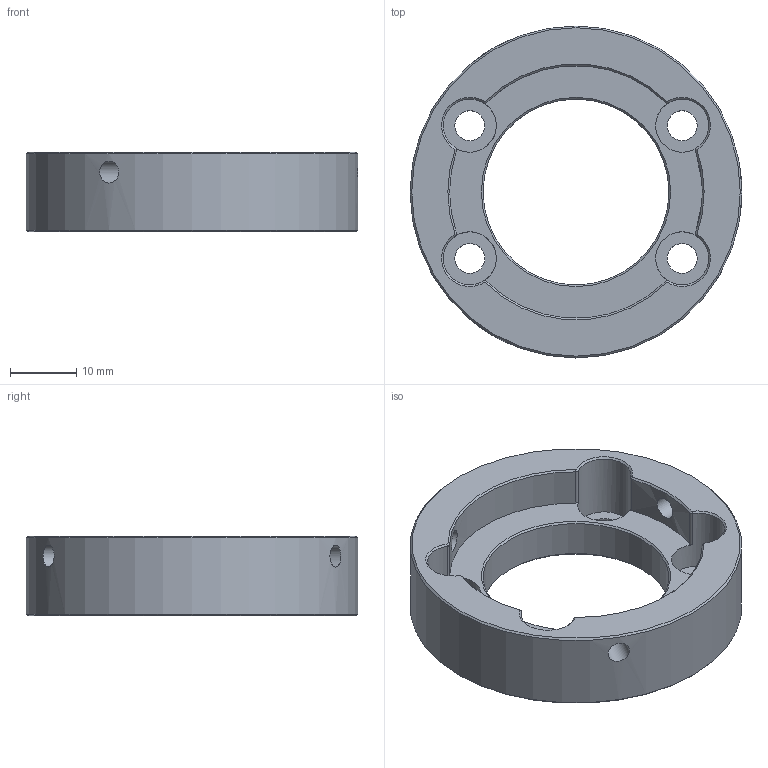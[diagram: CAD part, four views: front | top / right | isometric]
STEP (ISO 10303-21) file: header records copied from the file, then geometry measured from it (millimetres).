
FILE_DESCRIPTION (( 'STEP AP214' ), '1' );
FILE_NAME ('C60-RAO (CATALOG MODEL).STEP', '2022-01-31T17:58:02', ( '' ), ( '' ), 'SwSTEP 2.0', 'SolidWorks 2020', '' );
FILE_SCHEMA (( 'AUTOMOTIVE_DESIGN' ));
Length unit declared in the file: inch
Products named in the file (1): C60-RAO (CATALOG MODEL)
Bounding box: 50 x 50 x 12 mm (x, y, z)
Volume: 11260.6 mm3; surface area: 6452.5 mm2
Topology: 1 solids, 1 shells, 56 faces, 139 edges, 85 vertices
Faces by surface type: cylinder 27, cone 22, plane 7
Full cylindrical faces by diameter (mm): 3.023 x2, 3.3 x3, 4.496 x4, 8.001 x4, 28 x1, 50 x1
Entity records: 1909 total; most frequent: CARTESIAN_POINT 557, DIRECTION 290, ORIENTED_EDGE 220, AXIS2_PLACEMENT_3D 129, EDGE_CURVE 110, EDGE_LOOP 94, VERTEX_POINT 78, CIRCLE 72
